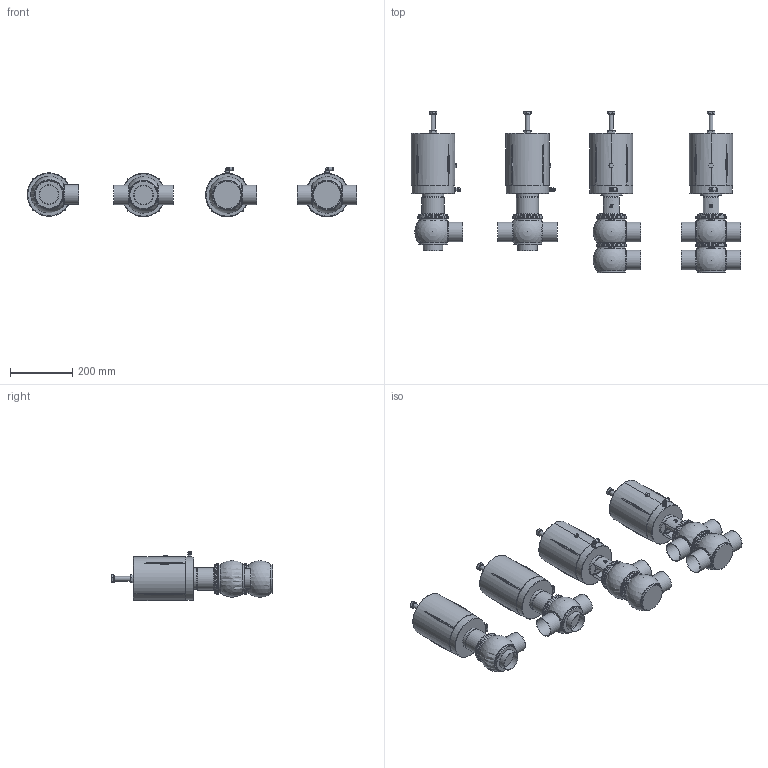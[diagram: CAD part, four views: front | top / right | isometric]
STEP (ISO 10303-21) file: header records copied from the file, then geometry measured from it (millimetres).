
FILE_DESCRIPTION(/* description */ ('BBZS5'),/* implementation_level */ '2;1');
FILE_NAME(/* name */ 'BBZS5-DN0635-CIL134-SAL.step',/* time_stamp */ '2026-03-13T14:38:04+01:00',/* author */ ('marz-m'),/* organization */ (''),/* preprocessor_version */ 'ST-DEVELOPER v20.1',/* originating_system */ 'Autodesk Inventor 2026',/* authorisation */ '');
FILE_SCHEMA (('AUTOMOTIVE_DESIGN { 1 0 10303 214 3 1 1 }'));
Length unit declared in the file: millimetre
Products named in the file (15): 3DISBBZP000850; BGEAAF212BEAK; TUA550212BBAA; BGEABF212BEAK; Assemblaggio-DN065; cil 134 tarabile; TUA650212BBAA; BGEAFF212BEAK; TUE650212BBAA; TUP650212BBAA; 3DISBBZP000851; QNC305134AAA10A; TOA000065AAA; TUE550212BBAA; TUP550212BBAA
Assembly tree (18 placements, depth 3):
  3DISBBZP000850
    BGEAAF212BEAK
      Assemblaggio-DN065
      cil 134 tarabile
      TUA550212BBAA
    BGEABF212BEAK
      Assemblaggio-DN065
      cil 134 tarabile
      TUA650212BBAA
    BGEAFF212BEAK
      QNC305134AAA10A
      TOA000065AAA
      TUE650212BBAA
      TUP650212BBAA
    3DISBBZP000851
      QNC305134AAA10A
      TOA000065AAA
      TUE550212BBAA
      TUP550212BBAA
Bounding box: 1057.11 x 517.2 x 158.64 mm (x, y, z)
Volume: 17527593.8 mm3; surface area: 1111850.6 mm2
Topology: 14 solids, 14 shells, 1025 faces, 2479 edges, 1544 vertices
Faces by surface type: plane 401, cylinder 285, cone 190, torus 69, sphere 56, bspline 24
Full cylindrical faces by diameter (mm): 3 x8, 4.9 x4, 6 x8, 7 x12, 8.3 x4, 8.566 x12, 10 x4, 11 x4, 11.5 x4, 14 x4, 19.37 x4, 20 x2, 25.6 x2, 60.5 x11, 63.5 x11, 64 x9, 69 x4, 71 x2, 77.3 x2, 83.8 x2, 90 x16, 98 x12, 138 x4
Entity records: 22019 total; most frequent: CARTESIAN_POINT 6987, DIRECTION 3045, ORIENTED_EDGE 2856, EDGE_CURVE 1428, AXIS2_PLACEMENT_3D 1248, VERTEX_POINT 914, EDGE_LOOP 708, FACE_OUTER_BOUND 611
